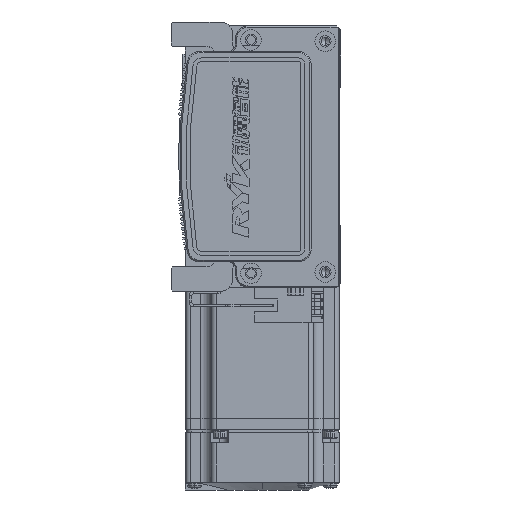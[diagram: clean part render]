
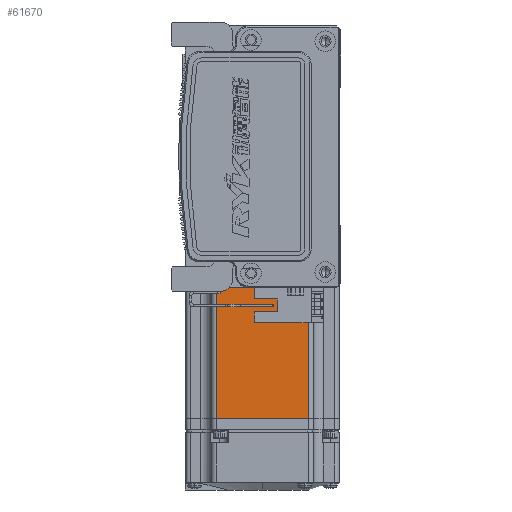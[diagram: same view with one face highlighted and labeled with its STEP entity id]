
A CAD part, left-side view. The second image highlights one B-rep face of the part: STEP entity #61670.
In plain terms, the highlighted planar face has unit normal (-1, 0, 0) as drawn and (0, 0, 1) by its records, which use the part's own axes.
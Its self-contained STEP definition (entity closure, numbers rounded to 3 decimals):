
#195 = DIRECTION ( 'NONE',  ( 0., -1., 0. ) ) ;
#2248 = VERTEX_POINT ( 'NONE', #62050 ) ;
#3573 = VECTOR ( 'NONE', #25848, 1000. ) ;
#5497 = EDGE_CURVE ( 'NONE', #2248, #40996, #20213, .T. ) ;
#9677 = CARTESIAN_POINT ( 'NONE',  ( -6.5, -25., 30. ) ) ;
#12061 = EDGE_CURVE ( 'NONE', #40996, #34819, #61358, .T. ) ;
#13546 = VERTEX_POINT ( 'NONE', #69682 ) ;
#16109 = VECTOR ( 'NONE', #23863, 1000. ) ;
#18153 = CARTESIAN_POINT ( 'NONE',  ( -70.95, 18., 30. ) ) ;
#20213 = LINE ( 'NONE', #20990, #3573 ) ;
#20990 = CARTESIAN_POINT ( 'NONE',  ( -6.5, 18., 30. ) ) ;
#21423 = ORIENTED_EDGE ( 'NONE', *, *, #12061, .T. ) ;
#23863 = DIRECTION ( 'NONE',  ( 0., -1., 0. ) ) ;
#25645 = VECTOR ( 'NONE', #195, 1000. ) ;
#25848 = DIRECTION ( 'NONE',  ( -1., 0., 0. ) ) ;
#25900 = FACE_OUTER_BOUND ( 'NONE', #28987, .T. ) ;
#28758 = CARTESIAN_POINT ( 'NONE',  ( -70.95, 0., 30. ) ) ;
#28956 = CARTESIAN_POINT ( 'NONE',  ( -6.5, -18., 30. ) ) ;
#28987 = EDGE_LOOP ( 'NONE', ( #53854, #69139, #21423, #59490 ) ) ;
#30919 = LINE ( 'NONE', #67716, #16109 ) ;
#32739 = VECTOR ( 'NONE', #57214, 1000. ) ;
#34819 = VERTEX_POINT ( 'NONE', #56777 ) ;
#37728 = PLANE ( 'NONE',  #52111 ) ;
#40996 = VERTEX_POINT ( 'NONE', #18153 ) ;
#45788 = EDGE_CURVE ( 'NONE', #13546, #34819, #47568, .T. ) ;
#46852 = EDGE_CURVE ( 'NONE', #2248, #13546, #30919, .T. ) ;
#47568 = LINE ( 'NONE', #28956, #32739 ) ;
#48944 = DIRECTION ( 'NONE',  ( 0., 0., 1. ) ) ;
#52111 = AXIS2_PLACEMENT_3D ( 'NONE', #9677, #48944, #70097 ) ;
#53854 = ORIENTED_EDGE ( 'NONE', *, *, #46852, .F. ) ;
#56777 = CARTESIAN_POINT ( 'NONE',  ( -70.95, -18., 30. ) ) ;
#57214 = DIRECTION ( 'NONE',  ( -1., 0., 0. ) ) ;
#59490 = ORIENTED_EDGE ( 'NONE', *, *, #45788, .F. ) ;
#61358 = LINE ( 'NONE', #28758, #25645 ) ;
#61670 = ADVANCED_FACE ( 'NONE', ( #25900 ), #37728, .T. ) ;
#62050 = CARTESIAN_POINT ( 'NONE',  ( -7.75, 18., 30. ) ) ;
#67716 = CARTESIAN_POINT ( 'NONE',  ( -7.75, 0., 30. ) ) ;
#69139 = ORIENTED_EDGE ( 'NONE', *, *, #5497, .T. ) ;
#69682 = CARTESIAN_POINT ( 'NONE',  ( -7.75, -18., 30. ) ) ;
#70097 = DIRECTION ( 'NONE',  ( 1., 0., 0. ) ) ;
